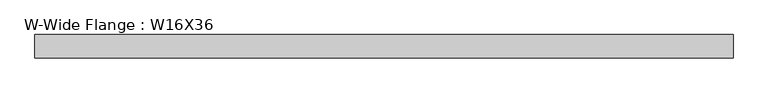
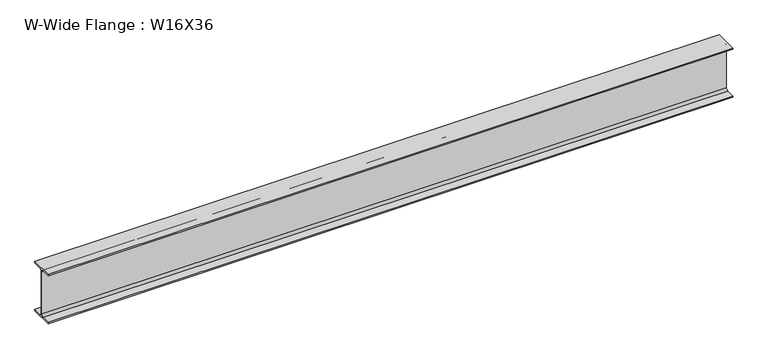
"""IFC4 building model written with IfcOpenShell, lengths in millimetres: beam geometry, W-Wide Flange : W16X36."""

from ifc_helpers import new_model, si_unit, point, frame, frame_2d, origin, place, context, project, spatial, polyline, circle_curve, trimmed, segment, composite_curve, outline, extrude, source, transform, mapped, element, save


def w_wide_flange_w16x36_26ac9203(model_context):
    return source(origin(), model_context, "Body", "SweptSolid", [
        extrude(outline(composite_curve([segment(polyline([(88.773, -191.008), (88.773, -201.93), (-88.773, -201.93), (-88.773, -191.008), (-21.3995, -191.008)]), True, "CONTINUOUS"), segment(trimmed(circle_curve(frame_2d((-21.3995, -173.355)), 17.653), [point((-21.3995, -191.008))], [point((-3.7465, -173.355))], True, "CARTESIAN"), True, "CONTINUOUS"), segment(polyline([(-3.7465, -173.355), (-3.7465, 173.355)]), True, "CONTINUOUS"), segment(trimmed(circle_curve(frame_2d((-21.3995, 173.355)), 17.653), [point((-3.7465, 173.355))], [point((-21.3995, 191.008))], True, "CARTESIAN"), True, "CONTINUOUS"), segment(polyline([(-21.3995, 191.008), (-88.773, 191.008), (-88.773, 201.93), (88.773, 201.93), (88.773, 191.008), (21.3995, 191.008)]), True, "CONTINUOUS"), segment(trimmed(circle_curve(frame_2d((21.3995, 173.355)), 17.653), [point((21.3995, 191.008))], [point((3.7465, 173.355))], True, "CARTESIAN"), True, "CONTINUOUS"), segment(polyline([(3.7465, 173.355), (3.7465, -173.355)]), True, "CONTINUOUS"), segment(trimmed(circle_curve(frame_2d((21.3995, -173.355)), 17.653), [point((3.7465, -173.355))], [point((21.3995, -191.008))], True, "CARTESIAN"), True, "CONTINUOUS"), segment(polyline([(21.3995, -191.008), (88.773, -191.008)]), True, "CONTINUOUS")], self_intersect=False)), frame((-2649.358427, 0.0, 0.0), z_axis=(1.0, 0.0, 0.0), x_axis=(0.0, 1.0, 0.0)), (0.0, 0.0, 1.0), 5308.854),
    ])


if __name__ == "__main__":
    model = new_model("IFC4")
    model_context = context("Model", 3, world=origin())
    ifc_project = project(units=[si_unit("LENGTHUNIT", "METRE", prefix="MILLI")], contexts=[model_context])
    site = spatial("IfcSite", under=ifc_project)
    building = spatial("IfcBuilding", under=site)
    placement = place(None, origin())
    w_wide_flange_w16x36_shape = w_wide_flange_w16x36_26ac9203(model_context)
    element("IfcBeam", 1, ObjectType="W-Wide Flange : W16X36", at=placement, inside=building, context=model_context, shape_type="MappedRepresentation", body=[
        mapped(w_wide_flange_w16x36_shape, transform((0.0, 0.0, 0.0), x_axis=(1.0, 0.0, 0.0), y_axis=(0.0, 1.0, 0.0), z_axis=(0.0, 0.0, 1.0))),
    ])
    save(model, "model.ifc")
